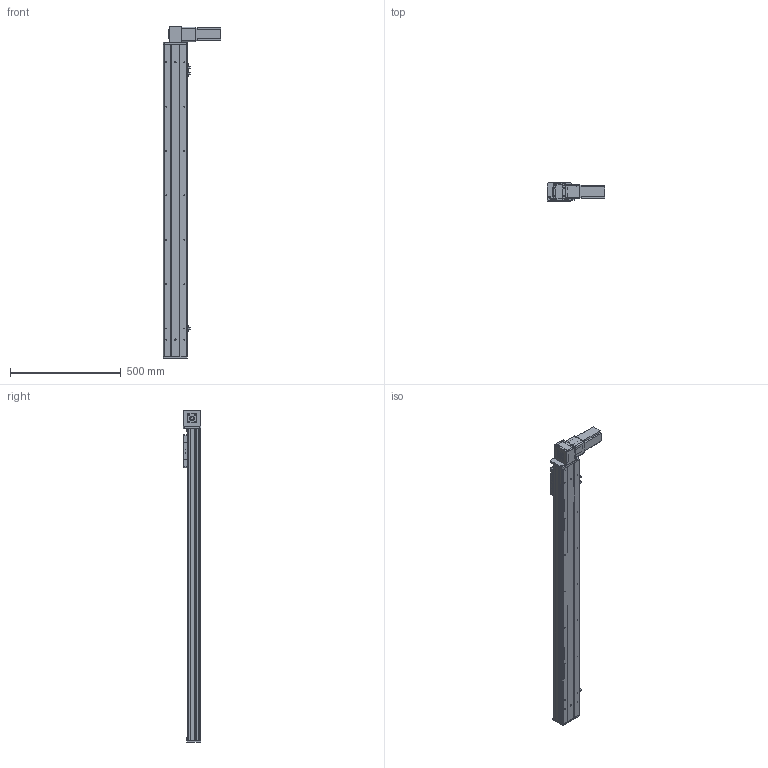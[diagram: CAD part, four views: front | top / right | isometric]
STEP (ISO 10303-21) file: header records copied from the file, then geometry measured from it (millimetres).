
FILE_DESCRIPTION (( 'STEP AP203' ), '1' );
FILE_NAME ('Y10CB-D90-S1150-BD-P400W.STEP', '2020-02-17T02:36:44', ( '微软用户' ), ( '微软中国' ), 'SwSTEP 2.0', 'SolidWorks 2017', '' );
FILE_SCHEMA (( 'CONFIG_CONTROL_DESIGN' ));
Length unit declared in the file: millimetre
Products named in the file (16): 0CB-雄赽釱---; 10CB9-掛极; 0Cb-俋欶---; 10CB-耜裔; Y10B-々湍喘謫眊楊擘啣--; Y135C-陔俋离換覜結え-; san松下电机400不带刹车----; Y100-135俋离換覜ん--; 0B-源倛裔啣; Y10B--々湍喘謫眊--666; 0B-埴倛裔啣; 0B-薊粣ん眊; 10CB-詩湍-; Y10CB-D90-S1150-BD-P400W; Y10CB- 掛极耜裔啣-毀---; Y10C---詩湍揤啣
Assembly tree (19 placements, depth 2):
  Y10CB-D90-S1150-BD-P400W
    0CB-雄赽釱---
    0Cb-俋欶---
    Y10B-々湍喘謫眊楊擘啣--
    san松下电机400不带刹车----
    0B-源倛裔啣
    0B-埴倛裔啣
    10CB-詩湍-
    Y10CB- 掛极耜裔啣-毀---  x2
    Y10C---詩湍揤啣  x2
    10CB9-掛极
    10CB-耜裔
    Y135C-陔俋离換覜結え-
    Y100-135俋离換覜ん--  x3
    Y10B--々湍喘謫眊--666
    0B-薊粣ん眊
Bounding box: 258 x 80.5 x 1496 mm (x, y, z)
Volume: 3397860.1 mm3; surface area: 1499966.1 mm2
Topology: 19 solids, 19 shells, 912 faces, 2422 edges, 1580 vertices
Faces by surface type: cylinder 450, plane 438, cone 24
Entity records: 28069 total; most frequent: CARTESIAN_POINT 5052, DIRECTION 4525, ORIENTED_EDGE 4314, EDGE_CURVE 2157, AXIS2_PLACEMENT_3D 1623, VERTEX_POINT 1406, VECTOR 1279, LINE 1279
